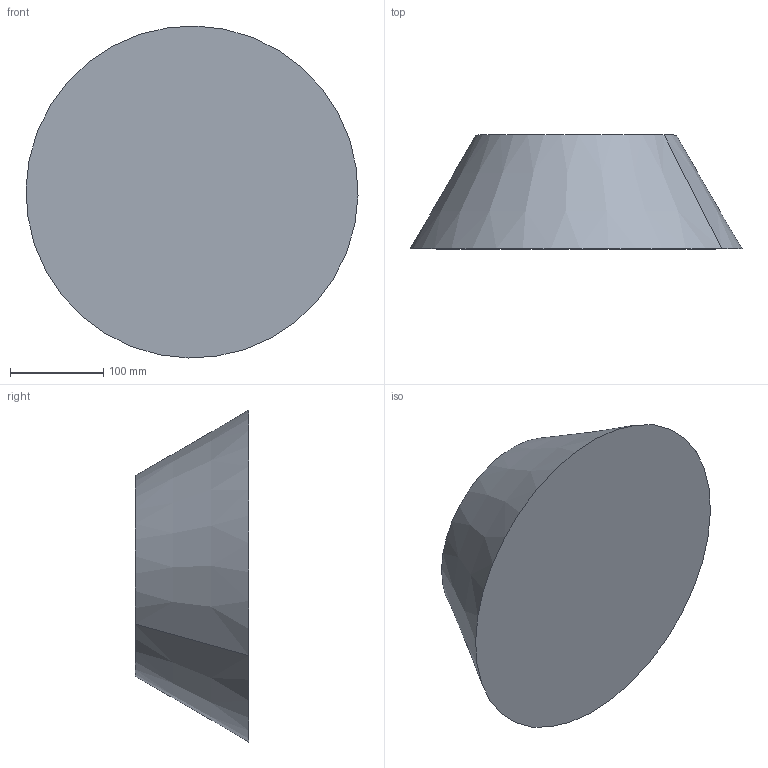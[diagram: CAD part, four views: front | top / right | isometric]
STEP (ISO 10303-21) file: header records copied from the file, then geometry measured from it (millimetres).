
FILE_DESCRIPTION(('CATIA V5 STEP Exchange'),'2;1');
FILE_NAME('C:\_Andres\UNIVERSIDAD\IQS\ASIGNATURAS\DAO\EXF\EXF-16172c\2inicio\Pascual_Sarrias_Ej09_v22.stp','2017-03-05T22:13:13+00:00',('none'),('none'),'CATIA Version 5-6 Release 2014 SP1 HF18','CATIA V5 STEP AP203','none');
FILE_SCHEMA(('CONFIG_CONTROL_DESIGN'));
Length unit declared in the file: millimetre
Products named in the file (1): Pascual_Sarrias_Ej09_v22
Bounding box: 355.9 x 122 x 355.9 mm (x, y, z)
Volume: 7964266.6 mm3; surface area: 264466 mm2
Topology: 1 solids, 2 shells, 8 faces, 12 edges, 8 vertices
Faces by surface type: plane 4, cone 2, cylinder 2
Entity records: 205 total; most frequent: CARTESIAN_POINT 27, DIRECTION 24, ORIENTED_EDGE 24, AXIS2_PLACEMENT_3D 15, EDGE_CURVE 12, ADVANCED_FACE 8, CIRCLE 8, EDGE_LOOP 8
